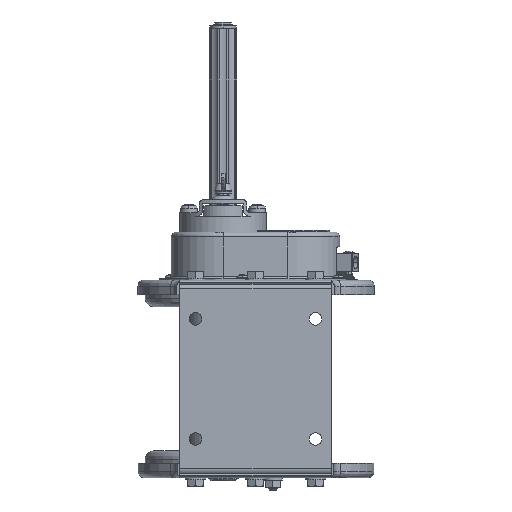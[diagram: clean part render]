
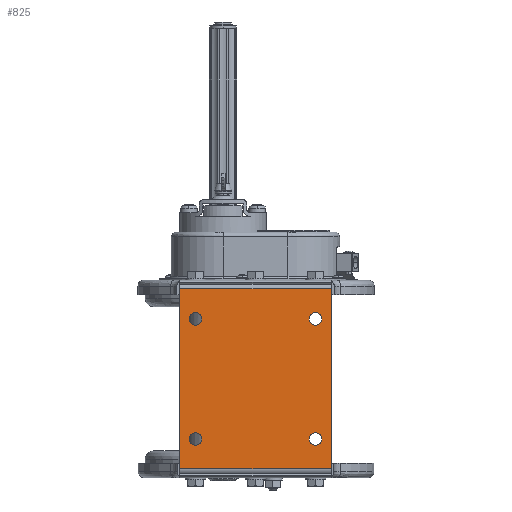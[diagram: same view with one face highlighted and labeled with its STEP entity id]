
A CAD part, front view. The second image highlights one B-rep face of the part: STEP entity #825.
In plain terms, the highlighted planar face has unit normal (0, -1, 0).
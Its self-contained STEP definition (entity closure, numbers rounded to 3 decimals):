
#825=ADVANCED_FACE('',(#9607,#9608,#9609,#9610,#9611),#9606,.F.);
#9606=PLANE('',#29250);
#9607=FACE_OUTER_BOUND('',#29251,.T.);
#9608=FACE_BOUND('',#29252,.T.);
#9609=FACE_BOUND('',#29253,.T.);
#9610=FACE_BOUND('',#29254,.T.);
#9611=FACE_BOUND('',#29255,.T.);
#29247=CARTESIAN_POINT('',(-184.621,-15.835,-160.482));
#29248=DIRECTION('',(0.,1.,0.));
#29249=DIRECTION('',(0.,0.,1.));
#29250=AXIS2_PLACEMENT_3D('',#29247,#29248,#29249);
#29251=EDGE_LOOP('',(#45354,#45355,#45356,#45357));
#29252=EDGE_LOOP('',(#45358,#45359));
#29253=EDGE_LOOP('',(#45360,#45361));
#29254=EDGE_LOOP('',(#45362,#45363));
#29255=EDGE_LOOP('',(#45364,#45365));
#45354=ORIENTED_EDGE('',*,*,#55428,.F.);
#45355=ORIENTED_EDGE('',*,*,#55277,.F.);
#45356=ORIENTED_EDGE('',*,*,#55403,.T.);
#45357=ORIENTED_EDGE('',*,*,#55315,.T.);
#45358=ORIENTED_EDGE('',*,*,#55429,.T.);
#45359=ORIENTED_EDGE('',*,*,#55430,.T.);
#45360=ORIENTED_EDGE('',*,*,#55431,.T.);
#45361=ORIENTED_EDGE('',*,*,#55432,.T.);
#45362=ORIENTED_EDGE('',*,*,#55433,.T.);
#45363=ORIENTED_EDGE('',*,*,#55434,.T.);
#45364=ORIENTED_EDGE('',*,*,#55435,.T.);
#45365=ORIENTED_EDGE('',*,*,#55436,.T.);
#55277=EDGE_CURVE('',#75668,#75675,#75676,.T.);
#55315=EDGE_CURVE('',#75931,#75924,#75932,.T.);
#55403=EDGE_CURVE('',#75668,#75931,#76511,.T.);
#55428=EDGE_CURVE('',#75675,#75924,#76674,.T.);
#55429=EDGE_CURVE('',#76680,#76681,#76682,.T.);
#55430=EDGE_CURVE('',#76681,#76680,#76688,.T.);
#55431=EDGE_CURVE('',#76694,#76695,#76696,.T.);
#55432=EDGE_CURVE('',#76695,#76694,#76702,.T.);
#55433=EDGE_CURVE('',#76708,#76709,#76710,.T.);
#55434=EDGE_CURVE('',#76709,#76708,#76716,.T.);
#55435=EDGE_CURVE('',#76722,#76723,#76724,.T.);
#55436=EDGE_CURVE('',#76723,#76722,#76730,.T.);
#75668=VERTEX_POINT('',#108000);
#75675=VERTEX_POINT('',#108005);
#75676=LINE('',#108006,#108007);
#75924=VERTEX_POINT('',#108171);
#75931=VERTEX_POINT('',#108176);
#75932=LINE('',#108177,#108178);
#76511=LINE('',#108572,#108573);
#76674=LINE('',#108674,#108675);
#76680=VERTEX_POINT('',#108677);
#76681=VERTEX_POINT('',#108678);
#76682=CIRCLE('',#108682,5.25);
#76688=CIRCLE('',#108686,5.25);
#76694=VERTEX_POINT('',#108687);
#76695=VERTEX_POINT('',#108688);
#76696=CIRCLE('',#108692,5.25);
#76702=CIRCLE('',#108696,5.25);
#76708=VERTEX_POINT('',#108697);
#76709=VERTEX_POINT('',#108698);
#76710=CIRCLE('',#108702,5.25);
#76716=CIRCLE('',#108706,5.25);
#76722=VERTEX_POINT('',#108707);
#76723=VERTEX_POINT('',#108708);
#76724=CIRCLE('',#108712,5.25);
#76730=CIRCLE('',#108716,5.25);
#108000=CARTESIAN_POINT('',(-48.621,-15.835,-0.482));
#108005=CARTESIAN_POINT('',(-48.621,-15.835,-150.482));
#108006=CARTESIAN_POINT('',(-48.621,-15.835,-0.482));
#108007=VECTOR('',#108008,150.);
#108008=DIRECTION('',(0.,0.,-1.));
#108171=CARTESIAN_POINT('',(-174.621,-15.835,-150.482));
#108176=CARTESIAN_POINT('',(-174.621,-15.835,-0.482));
#108177=CARTESIAN_POINT('',(-174.621,-15.835,-0.482));
#108178=VECTOR('',#108179,150.);
#108179=DIRECTION('',(0.,0.,-1.));
#108572=CARTESIAN_POINT('',(-48.621,-15.835,-0.482));
#108573=VECTOR('',#108574,126.);
#108574=DIRECTION('',(-1.,0.,0.));
#108674=CARTESIAN_POINT('',(-48.621,-15.835,-150.482));
#108675=VECTOR('',#108676,126.);
#108676=DIRECTION('',(-1.,0.,0.));
#108677=CARTESIAN_POINT('',(-161.621,-15.835,-120.232));
#108678=CARTESIAN_POINT('',(-161.621,-15.835,-130.732));
#108679=CARTESIAN_POINT('',(-161.621,-15.835,-125.482));
#108680=DIRECTION('',(0.,1.,0.));
#108681=DIRECTION('',(0.,0.,1.));
#108682=AXIS2_PLACEMENT_3D('',#108679,#108680,#108681);
#108683=CARTESIAN_POINT('',(-161.621,-15.835,-125.482));
#108684=DIRECTION('',(0.,1.,0.));
#108685=DIRECTION('',(0.,0.,1.));
#108686=AXIS2_PLACEMENT_3D('',#108683,#108684,#108685);
#108687=CARTESIAN_POINT('',(-61.621,-15.835,-120.232));
#108688=CARTESIAN_POINT('',(-61.621,-15.835,-130.732));
#108689=CARTESIAN_POINT('',(-61.621,-15.835,-125.482));
#108690=DIRECTION('',(0.,1.,0.));
#108691=DIRECTION('',(0.,0.,1.));
#108692=AXIS2_PLACEMENT_3D('',#108689,#108690,#108691);
#108693=CARTESIAN_POINT('',(-61.621,-15.835,-125.482));
#108694=DIRECTION('',(0.,1.,0.));
#108695=DIRECTION('',(0.,0.,1.));
#108696=AXIS2_PLACEMENT_3D('',#108693,#108694,#108695);
#108697=CARTESIAN_POINT('',(-61.621,-15.835,-20.232));
#108698=CARTESIAN_POINT('',(-61.621,-15.835,-30.732));
#108699=CARTESIAN_POINT('',(-61.621,-15.835,-25.482));
#108700=DIRECTION('',(0.,1.,0.));
#108701=DIRECTION('',(0.,0.,1.));
#108702=AXIS2_PLACEMENT_3D('',#108699,#108700,#108701);
#108703=CARTESIAN_POINT('',(-61.621,-15.835,-25.482));
#108704=DIRECTION('',(0.,1.,0.));
#108705=DIRECTION('',(0.,0.,1.));
#108706=AXIS2_PLACEMENT_3D('',#108703,#108704,#108705);
#108707=CARTESIAN_POINT('',(-161.621,-15.835,-20.232));
#108708=CARTESIAN_POINT('',(-161.621,-15.835,-30.732));
#108709=CARTESIAN_POINT('',(-161.621,-15.835,-25.482));
#108710=DIRECTION('',(0.,1.,0.));
#108711=DIRECTION('',(0.,0.,1.));
#108712=AXIS2_PLACEMENT_3D('',#108709,#108710,#108711);
#108713=CARTESIAN_POINT('',(-161.621,-15.835,-25.482));
#108714=DIRECTION('',(0.,1.,0.));
#108715=DIRECTION('',(0.,0.,1.));
#108716=AXIS2_PLACEMENT_3D('',#108713,#108714,#108715);
